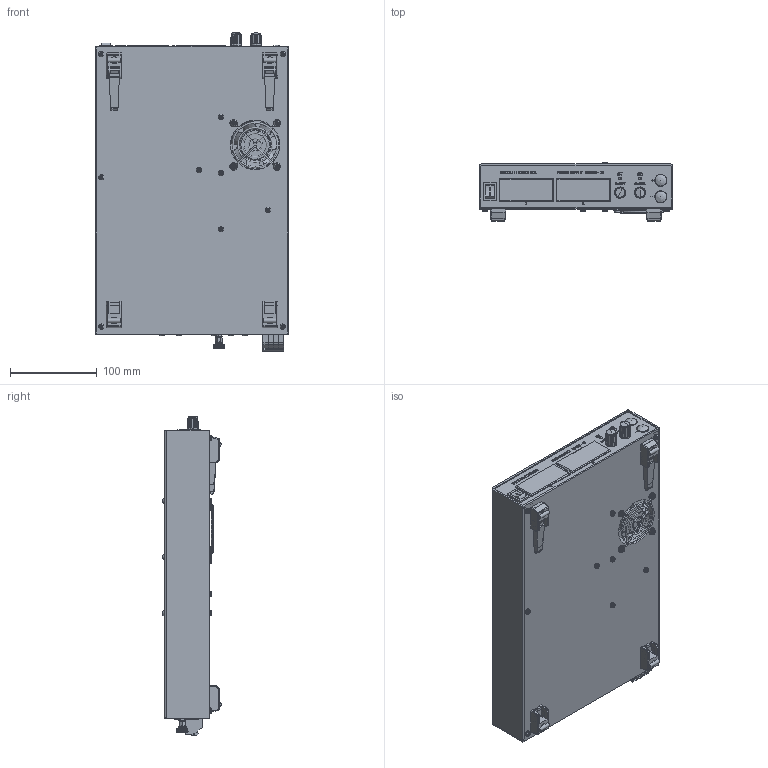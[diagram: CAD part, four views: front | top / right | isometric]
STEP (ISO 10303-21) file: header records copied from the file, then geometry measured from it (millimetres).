
FILE_DESCRIPTION(/* description */ (''),/* implementation_level */ '2;1');
FILE_NAME(/* name */ 'A:\Data\ES300\presentation\ES300-P325.stp',/* time_stamp */ '2021-01-04T13:08:33+01:00',/* author */ ('Delta'),/* organization */ (''),/* preprocessor_version */ 'ST-DEVELOPER v17.2',/* originating_system */ 'Autodesk Inventor 2019',/* authorisation */ '');
FILE_SCHEMA (('AUTOMOTIVE_DESIGN { 1 0 10303 214 3 1 1 }'));
Products named in the file (1): _Assembly ES300-P325_Shrinkwrap_2
Bounding box: 224 x 67.7 x 368.6 mm (x, y, z)
Surface area: 256532.7 mm2 (no closed solid volume)
Topology: 0 solids, 1 shells, 3510 faces, 8894 edges, 5641 vertices
Faces by surface type: plane 2071, cylinder 549, bspline 443, cone 261, torus 120, sphere 66
Full cylindrical faces by diameter (mm): 0.9 x12, 1.5 x8, 2 x4, 2.9 x2, 3 x7, 3.1 x6, 3.2 x1, 3.4 x4, 3.5 x135, 4 x3, 4.1 x4, 4.3 x9, 4.5 x2, 4.75 x4, 5 x1, 6 x38, 6.8 x4, 7.8 x2, 8 x4, 8.8 x3, 10.5 x1, 10.7 x2, 57 x2
Entity records: 118255 total; most frequent: CARTESIAN_POINT 33442, ORIENTED_EDGE 17688, DIRECTION 15605, EDGE_CURVE 8844, VERTEX_POINT 5641, AXIS2_PLACEMENT_3D 5338, LINE 4929, VECTOR 4929
